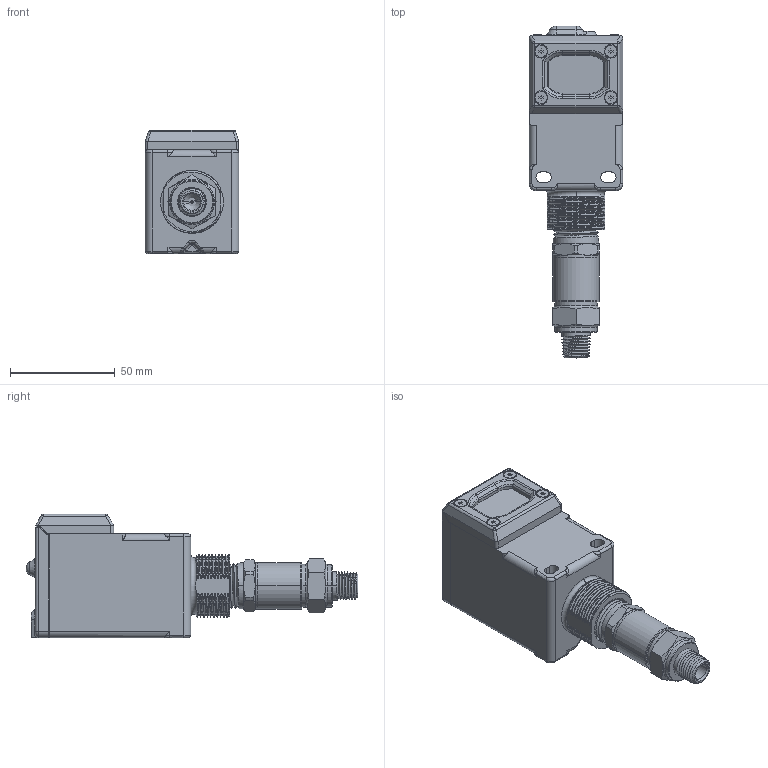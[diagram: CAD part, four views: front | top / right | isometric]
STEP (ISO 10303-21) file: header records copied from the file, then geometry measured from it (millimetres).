
FILE_DESCRIPTION((''),'2;1');
FILE_NAME('216534_ASM','2020-04-28T12:34:22',('PDMAdmin'),('BANNER ENGINEERING'),'CREO PARAMETRIC BY PTC INC, 2019292','CREO PARAMETRIC BY PTC INC, 2019292','');
FILE_SCHEMA(('CONFIG_CONTROL_DESIGN'));
Products named in the file (16): 165145; 1-4NPT_3; HOUSING-0-8_3; 1-2NPT_3; 805530_ASM; 12504; 207208; 212481; 14840; 35813; 160408_ASM; 157969; 56957; 51294; 807008_ASM; 216534_ASM
Assembly tree (18 placements, depth 4):
  216534_ASM
    807008_ASM
      165145
      805530_ASM
        1-4NPT_3
        HOUSING-0-8_3
        1-2NPT_3
      12504
      207208
      160408_ASM
        212481
        14840
        35813
      157969
      56957
      51294  x4
Bounding box: 44.45 x 158.08 x 58.85 mm (x, y, z)
Volume: 100631.5 mm3; surface area: 62940.3 mm2
Topology: 15 solids, 15 shells, 1119 faces, 2839 edges, 1765 vertices
Faces by surface type: plane 404, cylinder 352, bspline 137, cone 109, torus 80, sphere 37
Entity records: 53074 total; most frequent: CARTESIAN_POINT 28115, ORIENTED_EDGE 5346, DIRECTION 4858, EDGE_CURVE 2673, AXIS2_PLACEMENT_3D 1742, VERTEX_POINT 1669, VECTOR 1374, LINE 1374
